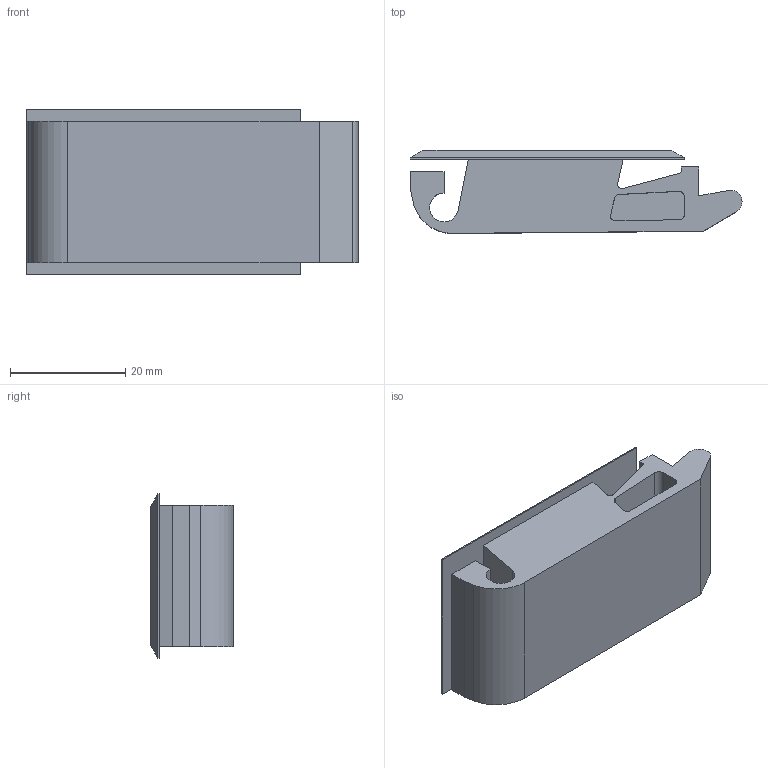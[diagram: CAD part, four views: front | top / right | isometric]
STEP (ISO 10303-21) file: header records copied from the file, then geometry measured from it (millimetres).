
FILE_DESCRIPTION (( 'STEP AP203' ), '1' );
FILE_NAME ('2.509.001.STEP', '2013-09-04T12:24:53', ( '' ), ( '' ), 'SwSTEP 2.0', 'SolidWorks 2013', '' );
FILE_SCHEMA (( 'CONFIG_CONTROL_DESIGN' ));
Length unit declared in the file: millimetre
Products named in the file (2): Slinding lock; 2.509.001
Assembly tree (1 placements, depth 2):
  2.509.001
    Slinding lock
Bounding box: 57.6 x 14.4 x 28.6 mm (x, y, z)
Volume: 8087.9 mm3; surface area: 8230.2 mm2
Topology: 1 solids, 1 shells, 78 faces, 197 edges, 123 vertices
Faces by surface type: plane 42, cylinder 27, bspline 4, torus 3, sphere 2
Entity records: 2638 total; most frequent: CARTESIAN_POINT 580, DIRECTION 394, ORIENTED_EDGE 388, EDGE_CURVE 194, AXIS2_PLACEMENT_3D 132, LINE 130, VECTOR 130, VERTEX_POINT 122
